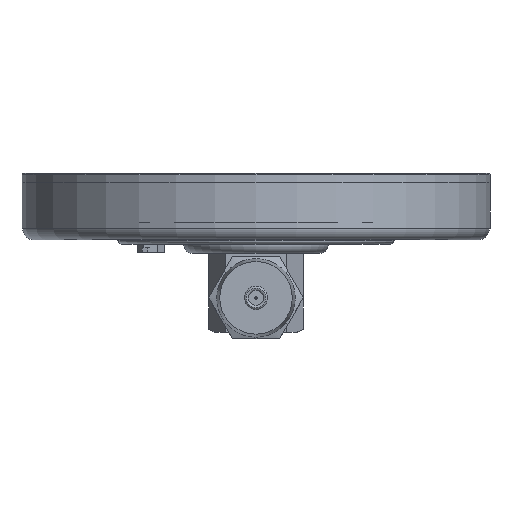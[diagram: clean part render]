
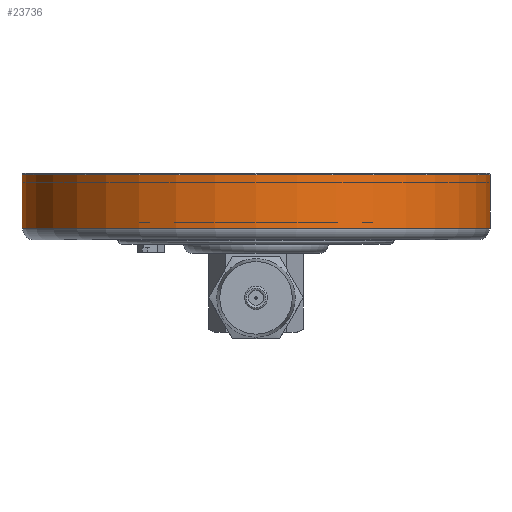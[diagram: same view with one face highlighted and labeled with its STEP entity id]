
A CAD part, front view. The second image highlights one B-rep face of the part: STEP entity #23736.
In plain terms, the highlighted cylindrical face has radius 63.5 mm (diameter 127 mm), a full revolution.
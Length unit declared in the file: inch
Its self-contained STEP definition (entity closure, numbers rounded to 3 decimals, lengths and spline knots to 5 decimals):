
#8476=FACE_BOUND($,#10079,.T.);
#8724=CYLINDRICAL_SURFACE($,#25083,2.5);
#8774=FACE_OUTER_BOUND($,#10078,.T.);
#10078=EDGE_LOOP($,(#17254));
#10079=EDGE_LOOP($,(#17255));
#11616=CIRCLE($,#25081,2.5);
#11618=CIRCLE($,#25084,2.5);
#11714=VERTEX_POINT($,#31461);
#11716=VERTEX_POINT($,#31466);
#13919=EDGE_CURVE($,#11714,#11714,#11616,.T.);
#13921=EDGE_CURVE($,#11716,#11716,#11618,.T.);
#17254=ORIENTED_EDGE($,*,*,#13921,.F.);
#17255=ORIENTED_EDGE($,*,*,#13919,.F.);
#23736=ADVANCED_FACE($,(#8774,#8476),#8724,.T.);
#25081=AXIS2_PLACEMENT_3D($,#31462,#26329,#26330);
#25083=AXIS2_PLACEMENT_3D($,#31465,#26333,#26334);
#25084=AXIS2_PLACEMENT_3D($,#31467,#26335,#26336);
#26329=DIRECTION('center_axis',(0.,0.,-1.));
#26330=DIRECTION('ref_axis',(1.,0.,0.));
#26333=DIRECTION('center_axis',(0.,0.,-1.));
#26334=DIRECTION('ref_axis',(-1.,0.,0.));
#26335=DIRECTION('center_axis',(0.,0.,1.));
#26336=DIRECTION('ref_axis',(1.,0.,0.));
#31461=CARTESIAN_POINT('',(10.55644,5.56344,10.13454));
#31462=CARTESIAN_POINT('Origin',(13.05644,5.56344,10.13454));
#31465=CARTESIAN_POINT('Origin',(13.05644,5.56344,10.42854));
#31466=CARTESIAN_POINT('',(10.55644,5.56344,10.70717));
#31467=CARTESIAN_POINT('Origin',(13.05644,5.56344,10.70717));
